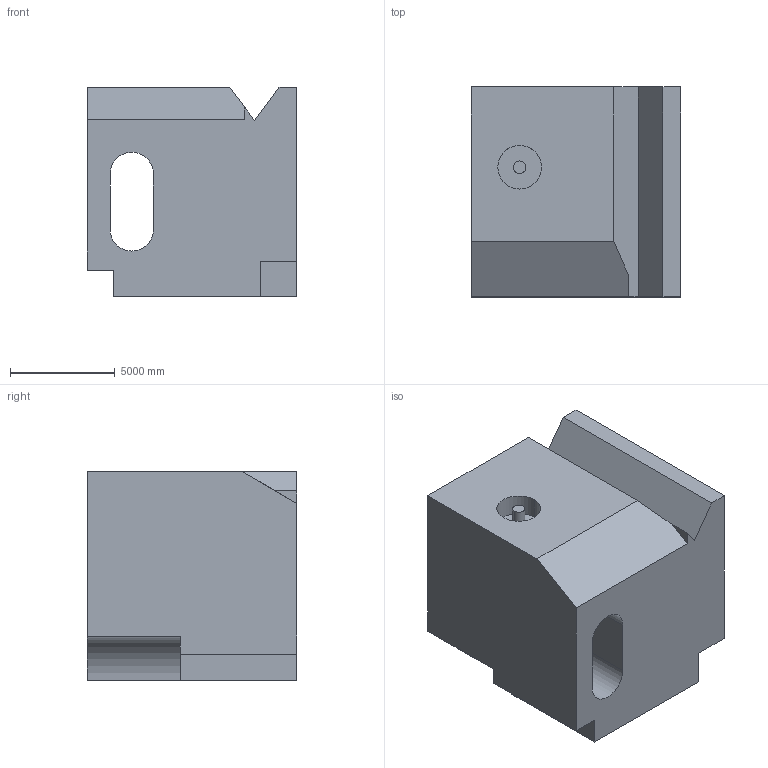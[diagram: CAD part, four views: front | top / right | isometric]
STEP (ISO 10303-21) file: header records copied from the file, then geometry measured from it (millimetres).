
FILE_DESCRIPTION (( 'STEP AP203' ), '1' );
FILE_NAME ('602.STEP', '2022-07-29T12:02:12', ( 'user' ), ( '' ), 'SwSTEP 2.0', 'SolidWorks 2021', '' );
FILE_SCHEMA (( 'CONFIG_CONTROL_DESIGN' ));
Length unit declared in the file: centimetre
Products named in the file (1): 602
Bounding box: 10000 x 10000 x 10000 mm (x, y, z)
Volume: 842946835679.3 mm3; surface area: 703092838.8 mm2
Topology: 1 solids, 1 shells, 29 faces, 75 edges, 50 vertices
Faces by surface type: plane 21, cylinder 8
Entity records: 966 total; most frequent: CARTESIAN_POINT 155, DIRECTION 151, ORIENTED_EDGE 150, EDGE_CURVE 75, VECTOR 59, LINE 59, VERTEX_POINT 50, AXIS2_PLACEMENT_3D 46
